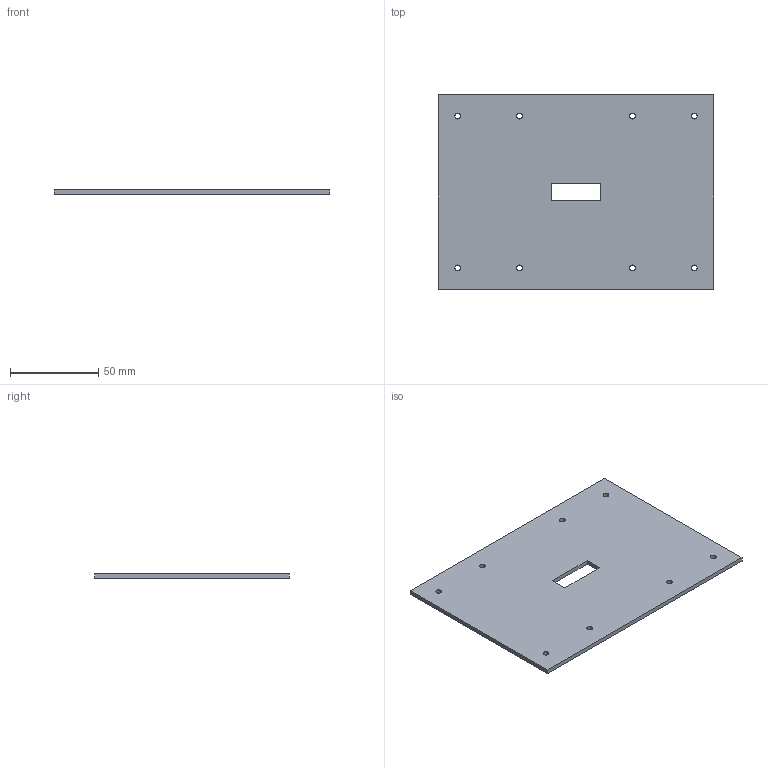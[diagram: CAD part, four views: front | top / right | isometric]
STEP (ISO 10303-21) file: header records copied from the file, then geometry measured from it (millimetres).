
FILE_DESCRIPTION(('FreeCAD Model'),'2;1');
FILE_NAME('Open CASCADE Shape Model','2026-11-06T11:39:14',('FreeCAD'),( 'FreeCAD'),'Open CASCADE STEP processor 7.8','FreeCAD','Unknown');
FILE_SCHEMA(('AUTOMOTIVE_DESIGN { 1 0 10303 214 1 1 1 1 }'));
Length unit declared in the file: millimetre
Products named in the file (1): Open CASCADE STEP translator 7.8 14
Bounding box: 156 x 110 x 2.5 mm (x, y, z)
Volume: 42028.9 mm3; surface area: 35350.5 mm2
Topology: 1 solids, 1 shells, 18 faces, 48 edges, 32 vertices
Faces by surface type: plane 10, cylinder 8
Full cylindrical faces by diameter (mm): 3.3 x8
Entity records: 614 total; most frequent: DIRECTION 102, CARTESIAN_POINT 99, ORIENTED_EDGE 96, EDGE_CURVE 48, FACE_BOUND 36, EDGE_LOOP 36, AXIS2_PLACEMENT_3D 35, VERTEX_POINT 32
